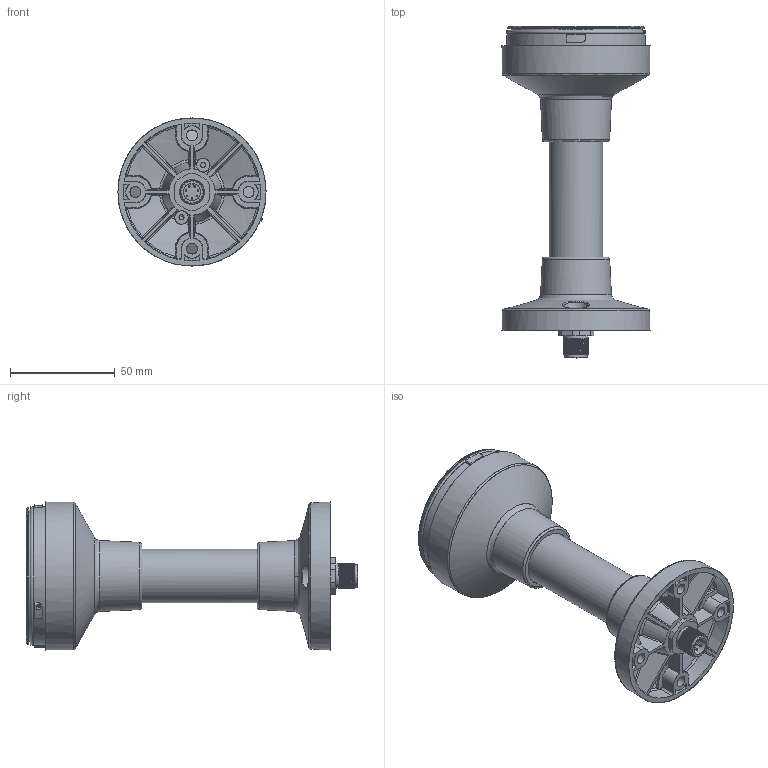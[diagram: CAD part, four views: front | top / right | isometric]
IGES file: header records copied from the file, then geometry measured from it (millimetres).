
Global section: file name: H:\lem\3DCAD_A7_MP1_100_M12.igs; native system: NX V11.0; preprocessor: SIEMENS PLM Software NX 11.0; date: 20200131.102313; units: millimetre
Bounding box: 70.6 x 158.3 x 70.6 mm (x, y, z)
Surface area: 69520.4 mm2 (no closed solid volume)
Topology: 0 solids, 0 shells, 1064 faces, 7214 edges, 7177 vertices
Faces by surface type: bspline 1064
